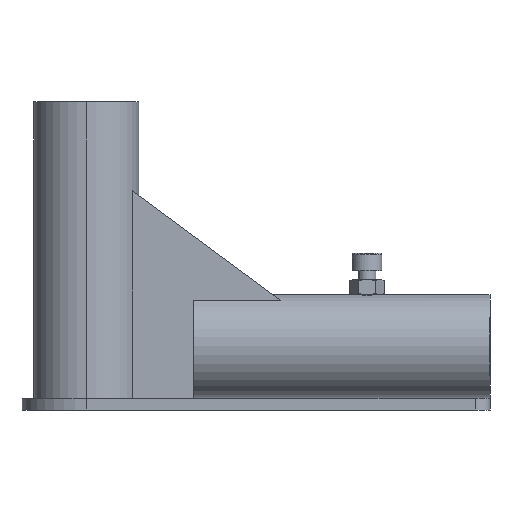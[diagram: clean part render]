
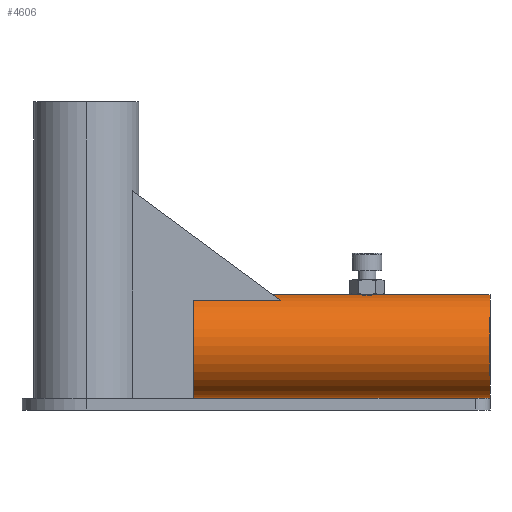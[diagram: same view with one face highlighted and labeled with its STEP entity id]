
A CAD part, left-side view. The second image highlights one B-rep face of the part: STEP entity #4606.
In plain terms, the highlighted cylindrical face has radius 17.5 mm (diameter 35 mm), a partial arc.
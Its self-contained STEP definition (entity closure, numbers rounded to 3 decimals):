
#55 = CARTESIAN_POINT ( 'NONE',  ( -64.649, -39.955, 36.868 ) ) ;
#70 = LINE ( 'NONE', #2454, #4303 ) ;
#97 = ORIENTED_EDGE ( 'NONE', *, *, #4405, .T. ) ;
#123 = VECTOR ( 'NONE', #1115, 1000. ) ;
#207 = CARTESIAN_POINT ( 'NONE',  ( -63.942, -34.588, 36.942 ) ) ;
#241 = CARTESIAN_POINT ( 'NONE',  ( -65.421, -36.067, 36.755 ) ) ;
#246 = B_SPLINE_CURVE_WITH_KNOTS ( 'NONE', 3,
 ( #4207, #883, #1702, #982, #4294, #207, #3192, #2457, #267, #2886, #3220, #1348, #241, #996, #2848, #2105, #967, #3236 ),
 .UNSPECIFIED., .F., .F.,
 ( 4, 2, 2, 2, 2, 2, 2, 2, 4 ),
 ( 0.005, 0.006, 0.006, 0.007, 0.008, 0.008, 0.009, 0.01, 0.01 ),
 .UNSPECIFIED. ) ;
#248 = CYLINDRICAL_SURFACE ( 'NONE', #2968, 17.5 ) ;
#267 = CARTESIAN_POINT ( 'NONE',  ( -64.648, -35.059, 36.868 ) ) ;
#316 = VERTEX_POINT ( 'NONE', #4460 ) ;
#413 = CARTESIAN_POINT ( 'NONE',  ( -64.482, -40.092, 36.888 ) ) ;
#422 = ORIENTED_EDGE ( 'NONE', *, *, #3098, .F. ) ;
#512 = CARTESIAN_POINT ( 'NONE',  ( -62.5, -40.758, 37. ) ) ;
#515 = DIRECTION ( 'NONE',  ( 0., -1., 0. ) ) ;
#780 = CARTESIAN_POINT ( 'NONE',  ( -65.75, -37.508, 36.696 ) ) ;
#796 = CARTESIAN_POINT ( 'NONE',  ( -63.549, -40.591, 36.97 ) ) ;
#883 = CARTESIAN_POINT ( 'NONE',  ( -62.712, -34.258, 37. ) ) ;
#931 = ORIENTED_EDGE ( 'NONE', *, *, #4435, .F. ) ;
#948 = CARTESIAN_POINT ( 'NONE',  ( -62.5, 21., 19.5 ) ) ;
#967 = CARTESIAN_POINT ( 'NONE',  ( -65.75, -37.296, 36.696 ) ) ;
#982 = CARTESIAN_POINT ( 'NONE',  ( -63.345, -34.363, 36.981 ) ) ;
#996 = CARTESIAN_POINT ( 'NONE',  ( -65.584, -36.46, 36.726 ) ) ;
#1021 = CARTESIAN_POINT ( 'NONE',  ( -62.5, 21., 19.5 ) ) ;
#1098 = CARTESIAN_POINT ( 'NONE',  ( -65.646, -38.353, 36.715 ) ) ;
#1115 = DIRECTION ( 'NONE',  ( 0., -1., 0. ) ) ;
#1143 = CARTESIAN_POINT ( 'NONE',  ( -65.583, -38.557, 36.726 ) ) ;
#1160 = CARTESIAN_POINT ( 'NONE',  ( -63.343, -40.654, 36.981 ) ) ;
#1221 = AXIS2_PLACEMENT_3D ( 'NONE', #948, #2420, #1666 ) ;
#1245 = CARTESIAN_POINT ( 'NONE',  ( -62.715, -40.758, 37. ) ) ;
#1324 = CARTESIAN_POINT ( 'NONE',  ( -62.5, -34.258, 37. ) ) ;
#1348 = CARTESIAN_POINT ( 'NONE',  ( -65.319, -35.877, 36.772 ) ) ;
#1367 = DIRECTION ( 'NONE',  ( 0., 0., -1. ) ) ;
#1413 = VERTEX_POINT ( 'NONE', #2492 ) ;
#1564 = CIRCLE ( 'NONE', #4297, 17.5 ) ;
#1666 = DIRECTION ( 'NONE',  ( 0., 0., -1. ) ) ;
#1699 = DIRECTION ( 'NONE',  ( 0., 0., -1. ) ) ;
#1702 = CARTESIAN_POINT ( 'NONE',  ( -62.928, -34.279, 36.996 ) ) ;
#1734 = CARTESIAN_POINT ( 'NONE',  ( -62.5, -79., 37. ) ) ;
#1784 = EDGE_CURVE ( 'NONE', #2593, #2050, #3720, .T. ) ;
#1795 = EDGE_CURVE ( 'NONE', #4175, #316, #1976, .T. ) ;
#1944 = FACE_OUTER_BOUND ( 'NONE', #4360, .T. ) ;
#1969 = VERTEX_POINT ( 'NONE', #3234 ) ;
#1976 = CIRCLE ( 'NONE', #1221, 17.5 ) ;
#2050 = VERTEX_POINT ( 'NONE', #1734 ) ;
#2069 = DIRECTION ( 'NONE',  ( 0., -1., 0. ) ) ;
#2096 = CARTESIAN_POINT ( 'NONE',  ( -62.5, -40.758, 37. ) ) ;
#2105 = CARTESIAN_POINT ( 'NONE',  ( -65.729, -37.08, 36.7 ) ) ;
#2211 = LINE ( 'NONE', #3362, #123 ) ;
#2264 = CARTESIAN_POINT ( 'NONE',  ( -64.949, -39.656, 36.828 ) ) ;
#2420 = DIRECTION ( 'NONE',  ( 0., -1., 0. ) ) ;
#2454 = CARTESIAN_POINT ( 'NONE',  ( -62.5, 21., 2. ) ) ;
#2457 = CARTESIAN_POINT ( 'NONE',  ( -64.483, -34.925, 36.888 ) ) ;
#2492 = CARTESIAN_POINT ( 'NONE',  ( -62.5, -79., 2. ) ) ;
#2593 = VERTEX_POINT ( 'NONE', #2096 ) ;
#2833 = CARTESIAN_POINT ( 'NONE',  ( -62.5, -79., 19.5 ) ) ;
#2848 = CARTESIAN_POINT ( 'NONE',  ( -65.645, -36.663, 36.715 ) ) ;
#2886 = CARTESIAN_POINT ( 'NONE',  ( -64.95, -35.362, 36.828 ) ) ;
#2968 = AXIS2_PLACEMENT_3D ( 'NONE', #1021, #3993, #1367 ) ;
#3022 = CARTESIAN_POINT ( 'NONE',  ( -63.944, -40.428, 36.941 ) ) ;
#3098 = EDGE_CURVE ( 'NONE', #3936, #1969, #246, .T. ) ;
#3192 = CARTESIAN_POINT ( 'NONE',  ( -64.132, -34.689, 36.925 ) ) ;
#3220 = CARTESIAN_POINT ( 'NONE',  ( -65.084, -35.525, 36.809 ) ) ;
#3234 = CARTESIAN_POINT ( 'NONE',  ( -65.75, -37.508, 36.696 ) ) ;
#3236 = CARTESIAN_POINT ( 'NONE',  ( -65.75, -37.508, 36.696 ) ) ;
#3288 = EDGE_CURVE ( 'NONE', #4175, #3936, #2211, .T. ) ;
#3362 = CARTESIAN_POINT ( 'NONE',  ( -62.5, 21., 37. ) ) ;
#3380 = CARTESIAN_POINT ( 'NONE',  ( -65.75, -37.72, 36.696 ) ) ;
#3386 = EDGE_CURVE ( 'NONE', #1969, #2593, #3652, .T. ) ;
#3396 = CARTESIAN_POINT ( 'NONE',  ( -64.13, -40.328, 36.925 ) ) ;
#3525 = ORIENTED_EDGE ( 'NONE', *, *, #1795, .T. ) ;
#3652 = B_SPLINE_CURVE_WITH_KNOTS ( 'NONE', 3,
 ( #780, #3380, #4459, #1098, #1143, #4137, #3752, #4119, #2264, #55, #413, #3396, #3022, #796, #1160, #3771, #1245, #512 ),
 .UNSPECIFIED., .F., .F.,
 ( 4, 2, 2, 2, 2, 2, 2, 2, 4 ),
 ( 0.01, 0.011, 0.011, 0.012, 0.013, 0.013, 0.014, 0.015, 0.015 ),
 .UNSPECIFIED. ) ;
#3720 = LINE ( 'NONE', #3841, #3902 ) ;
#3752 = CARTESIAN_POINT ( 'NONE',  ( -65.32, -39.138, 36.772 ) ) ;
#3771 = CARTESIAN_POINT ( 'NONE',  ( -62.928, -40.737, 36.996 ) ) ;
#3841 = CARTESIAN_POINT ( 'NONE',  ( -62.5, 21., 37. ) ) ;
#3902 = VECTOR ( 'NONE', #515, 1000. ) ;
#3936 = VERTEX_POINT ( 'NONE', #1324 ) ;
#3993 = DIRECTION ( 'NONE',  ( 0., -1., 0. ) ) ;
#4119 = CARTESIAN_POINT ( 'NONE',  ( -65.083, -39.492, 36.809 ) ) ;
#4137 = CARTESIAN_POINT ( 'NONE',  ( -65.421, -38.948, 36.755 ) ) ;
#4158 = ORIENTED_EDGE ( 'NONE', *, *, #3386, .F. ) ;
#4174 = CARTESIAN_POINT ( 'NONE',  ( -62.5, 21., 37. ) ) ;
#4175 = VERTEX_POINT ( 'NONE', #4174 ) ;
#4207 = CARTESIAN_POINT ( 'NONE',  ( -62.5, -34.258, 37. ) ) ;
#4294 = CARTESIAN_POINT ( 'NONE',  ( -63.548, -34.424, 36.97 ) ) ;
#4297 = AXIS2_PLACEMENT_3D ( 'NONE', #2833, #4330, #1699 ) ;
#4303 = VECTOR ( 'NONE', #2069, 1000. ) ;
#4330 = DIRECTION ( 'NONE',  ( 0., -1., 0. ) ) ;
#4360 = EDGE_LOOP ( 'NONE', ( #4737, #3525, #97, #931, #4439, #4158, #422 ) ) ;
#4405 = EDGE_CURVE ( 'NONE', #316, #1413, #70, .T. ) ;
#4435 = EDGE_CURVE ( 'NONE', #2050, #1413, #1564, .T. ) ;
#4439 = ORIENTED_EDGE ( 'NONE', *, *, #1784, .F. ) ;
#4459 = CARTESIAN_POINT ( 'NONE',  ( -65.729, -37.932, 36.7 ) ) ;
#4460 = CARTESIAN_POINT ( 'NONE',  ( -62.5, 21., 2. ) ) ;
#4606 = ADVANCED_FACE ( 'NONE', ( #1944 ), #248, .T. ) ;
#4737 = ORIENTED_EDGE ( 'NONE', *, *, #3288, .F. ) ;
